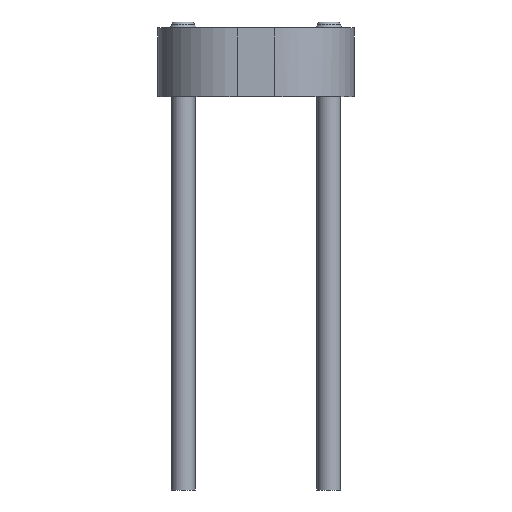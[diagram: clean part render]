
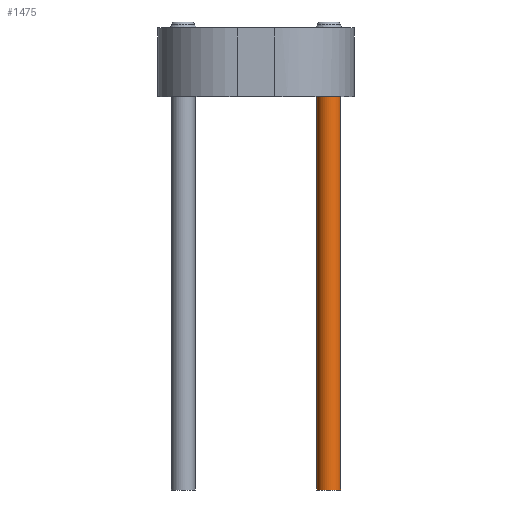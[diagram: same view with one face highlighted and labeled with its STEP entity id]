
A CAD part, front view. The second image highlights one B-rep face of the part: STEP entity #1475.
In plain terms, the highlighted cylindrical face has radius 0.3 mm (diameter 0.6 mm), a full revolution.
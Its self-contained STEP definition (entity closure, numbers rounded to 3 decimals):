
#29=CYLINDRICAL_SURFACE('',#1573,0.3);
#44=CIRCLE('',#1574,0.3);
#45=CIRCLE('',#1575,0.3);
#129=FACE_OUTER_BOUND('',#206,.T.);
#206=EDGE_LOOP('',(#1247,#1248,#1249,#1250));
#395=LINE('',#2360,#573);
#573=VECTOR('',#1911,0.3);
#704=VERTEX_POINT('',#2357);
#705=VERTEX_POINT('',#2359);
#900=EDGE_CURVE('',#704,#704,#44,.T.);
#901=EDGE_CURVE('',#704,#705,#395,.T.);
#902=EDGE_CURVE('',#705,#705,#45,.T.);
#1247=ORIENTED_EDGE('',*,*,#900,.F.);
#1248=ORIENTED_EDGE('',*,*,#901,.T.);
#1249=ORIENTED_EDGE('',*,*,#902,.F.);
#1250=ORIENTED_EDGE('',*,*,#901,.F.);
#1475=ADVANCED_FACE('',(#129),#29,.T.);
#1573=AXIS2_PLACEMENT_3D('',#2356,#1907,#1908);
#1574=AXIS2_PLACEMENT_3D('',#2358,#1909,#1910);
#1575=AXIS2_PLACEMENT_3D('',#2361,#1912,#1913);
#1907=DIRECTION('center_axis',(0.,0.,-1.));
#1908=DIRECTION('ref_axis',(0.,-1.,0.));
#1909=DIRECTION('center_axis',(0.,0.,-1.));
#1910=DIRECTION('ref_axis',(0.,-1.,0.));
#1911=DIRECTION('',(0.,0.,1.));
#1912=DIRECTION('center_axis',(0.,0.,1.));
#1913=DIRECTION('ref_axis',(0.,-1.,0.));
#2356=CARTESIAN_POINT('Origin',(1.85,0.,0.));
#2357=CARTESIAN_POINT('',(1.85,0.3,-10.));
#2358=CARTESIAN_POINT('Origin',(1.85,0.,-10.));
#2359=CARTESIAN_POINT('',(1.85,0.3,0.));
#2360=CARTESIAN_POINT('',(1.85,0.3,0.));
#2361=CARTESIAN_POINT('Origin',(1.85,0.,0.));
